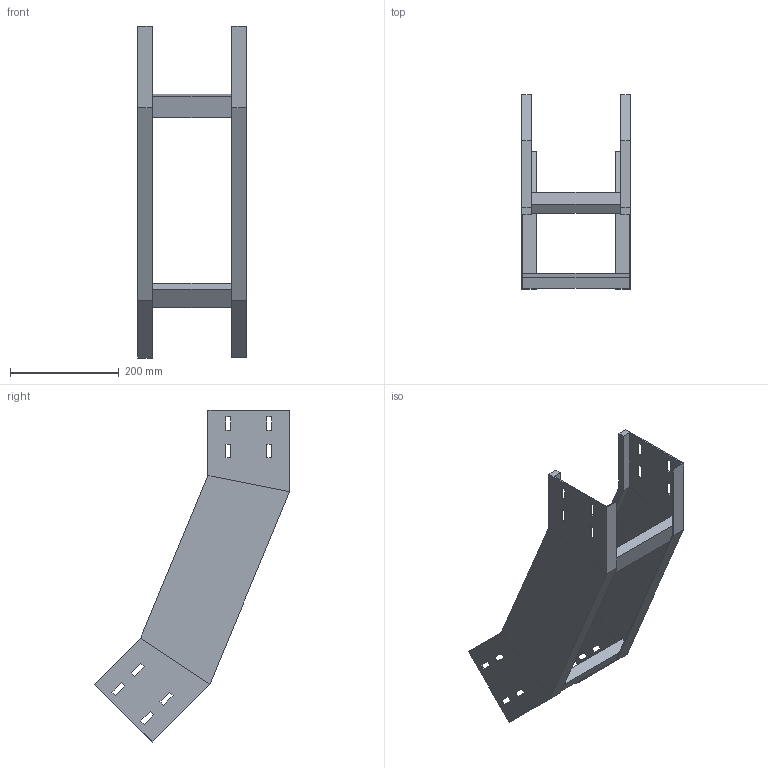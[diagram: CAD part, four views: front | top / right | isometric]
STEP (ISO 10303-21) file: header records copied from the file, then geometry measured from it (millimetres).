
FILE_DESCRIPTION (( 'STEP AP214' ), '1' );
FILE_NAME ('31J5F200.step', '2025-02-21T16:26:10', ( '' ), ( '' ), 'SwSTEP 2.0', 'SolidWorks 2023', '' );
FILE_SCHEMA (( 'AUTOMOTIVE_DESIGN' ));
Length unit declared in the file: millimetre
Products named in the file (3): LONGH.SALITA_45°_H150_R500; 31J5F200; TRAVERSINO_200
Assembly tree (4 placements, depth 2):
  31J5F200
    LONGH.SALITA_45°_H150_R500  x2
    TRAVERSINO_200  x2
Bounding box: 200 x 358.7 x 609.91 mm (x, y, z)
Volume: 970812 mm3; surface area: 531398.1 mm2
Topology: 4 solids, 4 shells, 128 faces, 328 edges, 208 vertices
Faces by surface type: plane 128
Entity records: 2016 total; most frequent: CARTESIAN_POINT 339, ORIENTED_EDGE 328, DIRECTION 306, LINE 164, EDGE_CURVE 164, VECTOR 164, VERTEX_POINT 104, EDGE_LOOP 80
